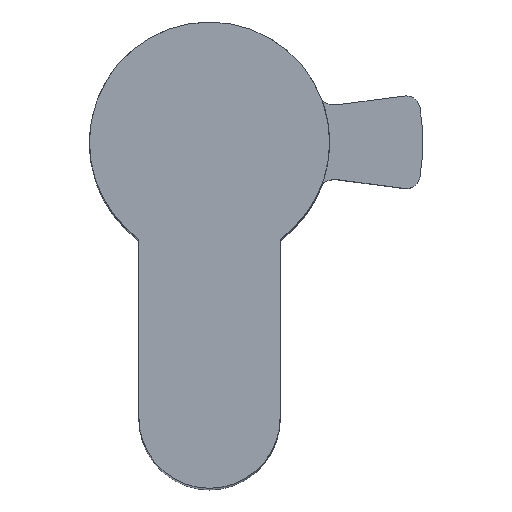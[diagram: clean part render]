
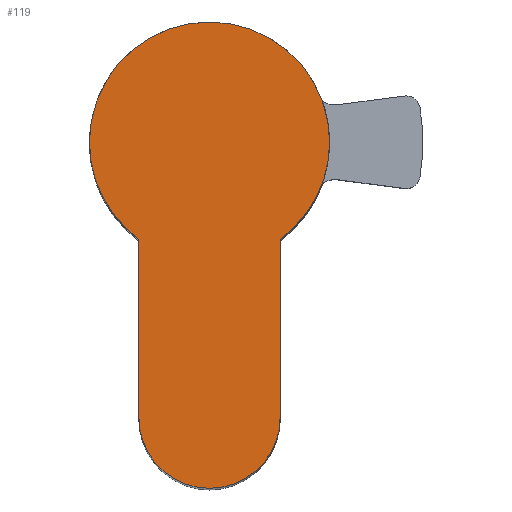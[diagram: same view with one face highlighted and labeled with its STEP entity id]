
A CAD part, top view. The second image highlights one B-rep face of the part: STEP entity #119.
In plain terms, the highlighted planar face has unit normal (0, 0, 1).
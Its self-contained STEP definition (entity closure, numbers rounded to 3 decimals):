
#4 = EDGE_CURVE ( 'NONE', #671, #618, #1220, .T. ) ;
#13 = ORIENTED_EDGE ( 'NONE', *, *, #1432, .T. ) ;
#57 = DIRECTION ( 'NONE',  ( 0., 0., 1. ) ) ;
#106 = DIRECTION ( 'NONE',  ( 0., 0., 1. ) ) ;
#114 = AXIS2_PLACEMENT_3D ( 'NONE', #144, #106, #730 ) ;
#119 = ADVANCED_FACE ( 'NONE', ( #313 ), #1371, .T. ) ;
#144 = CARTESIAN_POINT ( 'NONE',  ( 0., -19.5, 10. ) ) ;
#186 = EDGE_CURVE ( 'NONE', #1326, #1431, #989, .T. ) ;
#293 = CIRCLE ( 'NONE', #316, 8.5 ) ;
#300 = VECTOR ( 'NONE', #1462, 1000. ) ;
#313 = FACE_OUTER_BOUND ( 'NONE', #459, .T. ) ;
#316 = AXIS2_PLACEMENT_3D ( 'NONE', #1514, #661, #795 ) ;
#368 = DIRECTION ( 'NONE',  ( 1., 0., 0. ) ) ;
#380 = ORIENTED_EDGE ( 'NONE', *, *, #557, .T. ) ;
#381 = DIRECTION ( 'NONE',  ( 0., 1., 0. ) ) ;
#393 = EDGE_CURVE ( 'NONE', #1431, #855, #789, .T. ) ;
#459 = EDGE_LOOP ( 'NONE', ( #13, #544, #1033, #380, #1027, #1265 ) ) ;
#539 = AXIS2_PLACEMENT_3D ( 'NONE', #1132, #57, #1486 ) ;
#544 = ORIENTED_EDGE ( 'NONE', *, *, #186, .T. ) ;
#557 = EDGE_CURVE ( 'NONE', #855, #1107, #1125, .T. ) ;
#604 = CARTESIAN_POINT ( 'NONE',  ( 5., -19.5, 10. ) ) ;
#605 = CARTESIAN_POINT ( 'NONE',  ( -5., -19.5, 10. ) ) ;
#618 = VERTEX_POINT ( 'NONE', #1158 ) ;
#661 = DIRECTION ( 'NONE',  ( 0., 0., 1. ) ) ;
#671 = VERTEX_POINT ( 'NONE', #676 ) ;
#676 = CARTESIAN_POINT ( 'NONE',  ( 5., -19.5, 10. ) ) ;
#730 = DIRECTION ( 'NONE',  ( 1., 0., 0. ) ) ;
#740 = AXIS2_PLACEMENT_3D ( 'NONE', #1384, #1006, #782 ) ;
#741 = CARTESIAN_POINT ( 'NONE',  ( 8.5, 0., 10. ) ) ;
#747 = DIRECTION ( 'NONE',  ( 0., 0., 1. ) ) ;
#782 = DIRECTION ( 'NONE',  ( 1., 0., 0. ) ) ;
#789 = CIRCLE ( 'NONE', #1365, 8.5 ) ;
#795 = DIRECTION ( 'NONE',  ( 1., 0., 0. ) ) ;
#855 = VERTEX_POINT ( 'NONE', #1004 ) ;
#919 = CARTESIAN_POINT ( 'NONE',  ( -8.5, 0., 10. ) ) ;
#985 = CARTESIAN_POINT ( 'NONE',  ( -5., -6.874, 10. ) ) ;
#989 = CIRCLE ( 'NONE', #539, 8.5 ) ;
#1004 = CARTESIAN_POINT ( 'NONE',  ( -5., -6.874, 10. ) ) ;
#1006 = DIRECTION ( 'NONE',  ( 0., 0., 1. ) ) ;
#1027 = ORIENTED_EDGE ( 'NONE', *, *, #1494, .T. ) ;
#1033 = ORIENTED_EDGE ( 'NONE', *, *, #393, .T. ) ;
#1107 = VERTEX_POINT ( 'NONE', #605 ) ;
#1125 = LINE ( 'NONE', #985, #300 ) ;
#1132 = CARTESIAN_POINT ( 'NONE',  ( 0., 0., 10. ) ) ;
#1158 = CARTESIAN_POINT ( 'NONE',  ( 5., -6.874, 10. ) ) ;
#1220 = LINE ( 'NONE', #604, #1436 ) ;
#1265 = ORIENTED_EDGE ( 'NONE', *, *, #4, .T. ) ;
#1323 = CARTESIAN_POINT ( 'NONE',  ( 0., 0., 10. ) ) ;
#1326 = VERTEX_POINT ( 'NONE', #741 ) ;
#1365 = AXIS2_PLACEMENT_3D ( 'NONE', #1323, #747, #368 ) ;
#1371 = PLANE ( 'NONE',  #740 ) ;
#1384 = CARTESIAN_POINT ( 'NONE',  ( 0., 0., 10. ) ) ;
#1431 = VERTEX_POINT ( 'NONE', #919 ) ;
#1432 = EDGE_CURVE ( 'NONE', #618, #1326, #293, .T. ) ;
#1436 = VECTOR ( 'NONE', #381, 1000. ) ;
#1462 = DIRECTION ( 'NONE',  ( 0., -1., 0. ) ) ;
#1486 = DIRECTION ( 'NONE',  ( 1., 0., 0. ) ) ;
#1494 = EDGE_CURVE ( 'NONE', #1107, #671, #1513, .T. ) ;
#1513 = CIRCLE ( 'NONE', #114, 5. ) ;
#1514 = CARTESIAN_POINT ( 'NONE',  ( 0., 0., 10. ) ) ;
